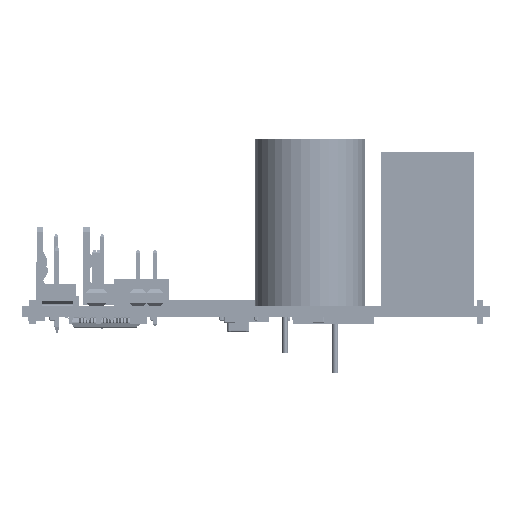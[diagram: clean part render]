
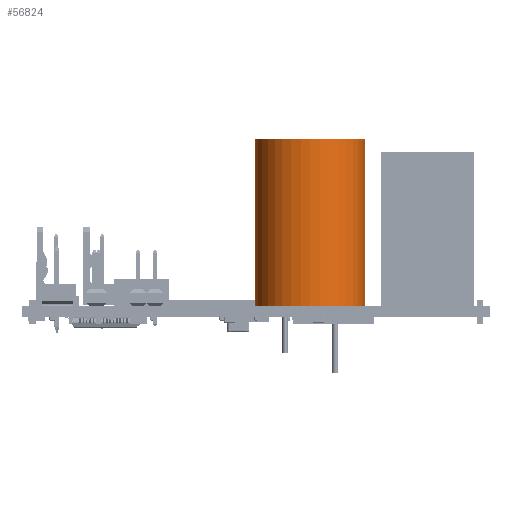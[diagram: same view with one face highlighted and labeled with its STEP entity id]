
A CAD part, left-side view. The second image highlights one B-rep face of the part: STEP entity #56824.
In plain terms, the highlighted cylindrical face has radius 8.25 mm (diameter 16.5 mm), a full revolution.
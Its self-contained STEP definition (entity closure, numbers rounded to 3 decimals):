
#6859=FACE_OUTER_BOUND('',#11595,.T.);
#11595=EDGE_LOOP('',(#48899,#48900,#48901,#48902));
#16048=LINE('',#92358,#20719);
#20719=VECTOR('',#76956,8.25);
#23864=CIRCLE('',#62758,8.25);
#23865=CIRCLE('',#62759,8.25);
#28188=VERTEX_POINT('',#92355);
#28189=VERTEX_POINT('',#92357);
#35223=EDGE_CURVE('',#28188,#28188,#23864,.T.);
#35224=EDGE_CURVE('',#28188,#28189,#16048,.T.);
#35225=EDGE_CURVE('',#28189,#28189,#23865,.T.);
#48899=ORIENTED_EDGE('',*,*,#35223,.F.);
#48900=ORIENTED_EDGE('',*,*,#35224,.T.);
#48901=ORIENTED_EDGE('',*,*,#35225,.T.);
#48902=ORIENTED_EDGE('',*,*,#35224,.F.);
#52918=CYLINDRICAL_SURFACE('',#62757,8.25);
#56824=ADVANCED_FACE('',(#6859),#52918,.T.);
#62757=AXIS2_PLACEMENT_3D('',#92354,#76952,#76953);
#62758=AXIS2_PLACEMENT_3D('',#92356,#76954,#76955);
#62759=AXIS2_PLACEMENT_3D('',#92359,#76957,#76958);
#76952=DIRECTION('center_axis',(0.,0.,1.));
#76953=DIRECTION('ref_axis',(1.,0.,0.));
#76954=DIRECTION('center_axis',(0.,0.,1.));
#76955=DIRECTION('ref_axis',(1.,0.,0.));
#76956=DIRECTION('',(0.,0.,-1.));
#76957=DIRECTION('center_axis',(0.,0.,1.));
#76958=DIRECTION('ref_axis',(1.,0.,0.));
#92354=CARTESIAN_POINT('Origin',(0.,0.,0.));
#92355=CARTESIAN_POINT('',(-8.25,0.,25.));
#92356=CARTESIAN_POINT('Origin',(0.,0.,25.));
#92357=CARTESIAN_POINT('',(-8.25,0.,0.));
#92358=CARTESIAN_POINT('',(-8.25,0.,0.));
#92359=CARTESIAN_POINT('Origin',(0.,0.,0.));
